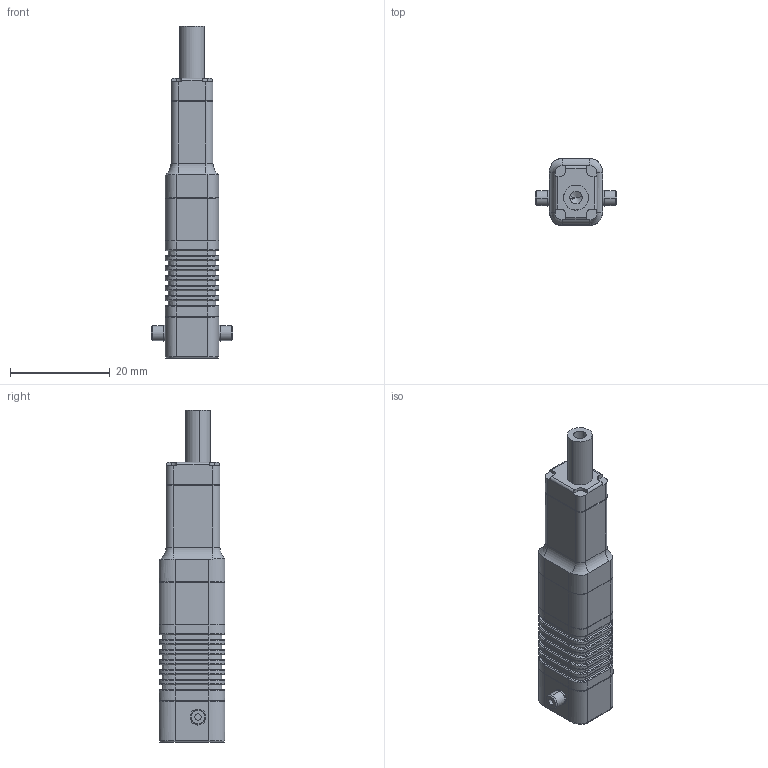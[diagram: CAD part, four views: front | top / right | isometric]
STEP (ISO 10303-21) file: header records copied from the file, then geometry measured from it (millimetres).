
FILE_DESCRIPTION (( 'STEP AP203' ), '1' );
FILE_NAME ('LA10-0x2D.STEP', '2021-11-26T10:53:19', ( '' ), ( '' ), 'SwSTEP 2.0', 'SolidWorks 2021', '' );
FILE_SCHEMA (( 'CONFIG_CONTROL_DESIGN' ));
Length unit declared in the file: millimetre
Products named in the file (3): exA820109-001__________.STEP; LA10-0x2D; exA820109-015_______________.STEP
Assembly tree (2 placements, depth 2):
  LA10-0x2D
    exA820109-001__________.STEP
    exA820109-015_______________.STEP
Bounding box: 16.4 x 13.2 x 66.5 mm (x, y, z)
Volume: 6799.2 mm3; surface area: 3228.8 mm2
Topology: 2 solids, 3 shells, 379 faces, 880 edges, 527 vertices
Faces by surface type: plane 139, bspline 132, cylinder 88, cone 16, torus 4
Entity records: 18211 total; most frequent: CARTESIAN_POINT 10147, ORIENTED_EDGE 1756, DIRECTION 1324, EDGE_CURVE 878, VERTEX_POINT 527, VECTOR 448, LINE 448, AXIS2_PLACEMENT_3D 438
